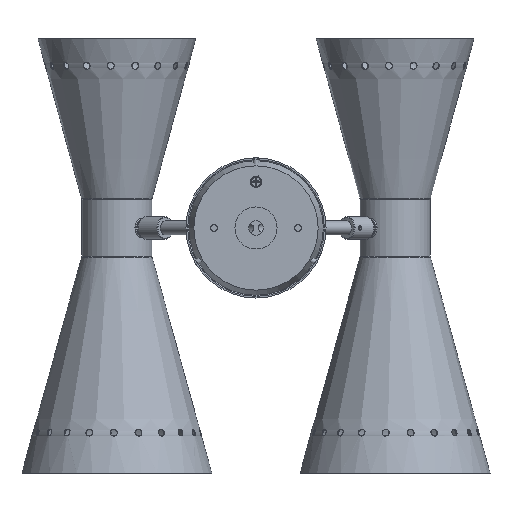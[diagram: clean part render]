
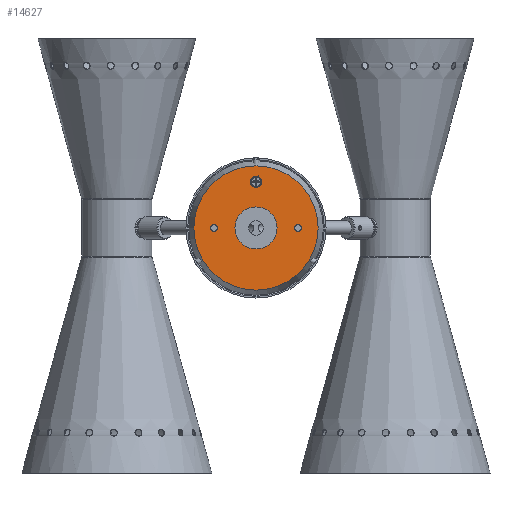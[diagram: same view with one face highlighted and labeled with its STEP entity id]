
A CAD part, left-side view. The second image highlights one B-rep face of the part: STEP entity #14627.
In plain terms, the highlighted planar face has unit normal (-1, 0, 0) as drawn and (0, 0, -1) by its records, which use the part's own axes.
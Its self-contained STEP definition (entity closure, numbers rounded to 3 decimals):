
#3203=PLANE('',#20903);
#3747=ORIENTED_EDGE('',*,*,#7924,.T.);
#3748=ORIENTED_EDGE('',*,*,#7920,.T.);
#3749=ORIENTED_EDGE('',*,*,#7925,.T.);
#3750=ORIENTED_EDGE('',*,*,#7926,.F.);
#3751=ORIENTED_EDGE('',*,*,#7923,.T.);
#7920=EDGE_CURVE('',#10009,#10009,#11464,.T.);
#7923=EDGE_CURVE('',#10012,#10012,#11467,.T.);
#7924=EDGE_CURVE('',#10013,#10013,#11468,.T.);
#7925=EDGE_CURVE('',#10014,#10014,#11469,.T.);
#7926=EDGE_CURVE('',#10015,#10015,#11470,.T.);
#10009=VERTEX_POINT('',#27010);
#10012=VERTEX_POINT('',#27018);
#10013=VERTEX_POINT('',#27021);
#10014=VERTEX_POINT('',#27023);
#10015=VERTEX_POINT('',#27025);
#11464=CIRCLE('',#20897,2.3);
#11467=CIRCLE('',#20902,44.36);
#11468=CIRCLE('',#20904,4.);
#11469=CIRCLE('',#20905,2.3);
#11470=CIRCLE('',#20906,15.);
#12050=EDGE_LOOP('',(#3747));
#12051=EDGE_LOOP('',(#3748));
#12052=EDGE_LOOP('',(#3749));
#12053=EDGE_LOOP('',(#3750));
#12054=EDGE_LOOP('',(#3751));
#13319=FACE_BOUND('',#12050,.T.);
#13320=FACE_BOUND('',#12051,.T.);
#13321=FACE_BOUND('',#12052,.T.);
#13322=FACE_BOUND('',#12053,.T.);
#13323=FACE_BOUND('',#12054,.T.);
#14627=ADVANCED_FACE('',(#13319,#13320,#13321,#13322,#13323),#3203,.F.);
#20897=AXIS2_PLACEMENT_3D('',#27009,#22561,#22562);
#20902=AXIS2_PLACEMENT_3D('',#27017,#22571,#22572);
#20903=AXIS2_PLACEMENT_3D('',#27019,#22573,#22574);
#20904=AXIS2_PLACEMENT_3D('',#27020,#22575,#22576);
#20905=AXIS2_PLACEMENT_3D('',#27022,#22577,#22578);
#20906=AXIS2_PLACEMENT_3D('',#27024,#22579,#22580);
#22561=DIRECTION('',(0.,0.,1.));
#22562=DIRECTION('',(-1.,0.,0.));
#22571=DIRECTION('',(0.,0.,-1.));
#22572=DIRECTION('',(-1.,0.,0.));
#22573=DIRECTION('',(0.,0.,1.));
#22574=DIRECTION('',(1.,0.,0.));
#22575=DIRECTION('',(0.,0.,1.));
#22576=DIRECTION('',(0.,-1.,0.));
#22577=DIRECTION('',(0.,0.,1.));
#22578=DIRECTION('',(1.,0.,0.));
#22579=DIRECTION('',(0.,0.,-1.));
#22580=DIRECTION('',(0.,-1.,0.));
#27009=CARTESIAN_POINT('',(-30.,0.,-5.));
#27010=CARTESIAN_POINT('',(-32.3,0.,-5.));
#27017=CARTESIAN_POINT('',(0.,0.,-5.));
#27018=CARTESIAN_POINT('',(-44.36,0.,-5.));
#27019=CARTESIAN_POINT('',(-44.36,0.,-5.));
#27020=CARTESIAN_POINT('',(0.,33.,-5.));
#27021=CARTESIAN_POINT('',(0.,29.,-5.));
#27022=CARTESIAN_POINT('',(30.,0.,-5.));
#27023=CARTESIAN_POINT('',(32.3,0.,-5.));
#27024=CARTESIAN_POINT('',(0.,0.,-5.));
#27025=CARTESIAN_POINT('',(0.,-15.,-5.));
